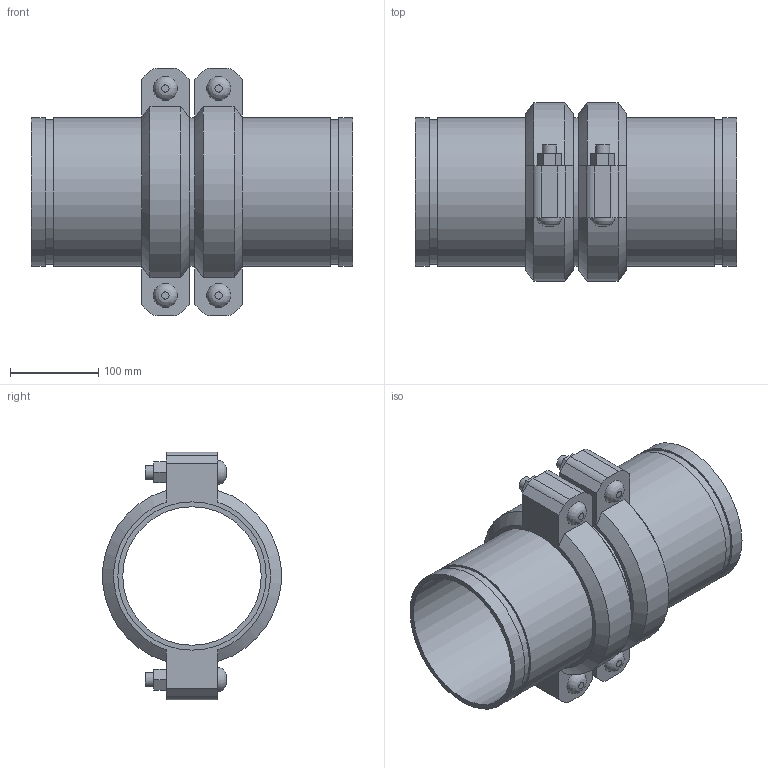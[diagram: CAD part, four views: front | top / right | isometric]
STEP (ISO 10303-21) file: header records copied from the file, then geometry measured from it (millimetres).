
FILE_DESCRIPTION(/* description */ ('VIC SS EXPANSION JOINT 2 COUPLINGS COMPRESSED STYLE 155P (OGS) (POTABLE WATER) ','CAx-IF Rec.Pracs.---Representation and Presentation of Product Manufacturing Information (PMI)---4.0---2014-10-13'),/* implementation_level */ '2;1');
FILE_NAME(/* name */ 'C:\Users\kkamble\AppData\Roaming\Autodesk\ApplicationPlugins\Victaulic.Temp\A462\Victaulic_SS_Expansion Joint_Compressed_2 Couplings_Style 155P (OGS)-Potable Water_2 Coup_Comp_6 (150).stp',/* time_stamp */ '2021-07-16T17:09:40+06:00',/* author */ ('kkamble'),/* organization */ ('Victaulic'),/* preprocessor_version */ 'ST-DEVELOPER v17.2',/* originating_system */ 'Autodesk Inventor 2019',/* authorisation */ '');
FILE_SCHEMA (('AP242_MANAGED_MODEL_BASED_3D_ENGINEERING_MIM_LF { 1 0 10303 442 1 1 4 }'));
Length unit declared in the file: inch
Products named in the file (4): 155P-06.0; Nipple-06.0; Nipple-06.0_1; 075-06.0
Assembly tree (5 placements, depth 2):
  155P-06.0
    Nipple-06.0  x2
    Nipple-06.0_1
    075-06.0  x2
Bounding box: 364.49 x 202.46 x 281.18 mm (x, y, z)
Volume: 2471236.4 mm3; surface area: 622376 mm2
Topology: 5 solids, 9 shells, 142 faces, 344 edges, 244 vertices
Faces by surface type: plane 86, cylinder 44, cone 8, bspline 4
Full cylindrical faces by diameter (mm): 15.875 x8, 17.424 x4, 157.15 x3, 163.957 x6, 168.275 x11
Entity records: 2641 total; most frequent: CARTESIAN_POINT 475, DIRECTION 435, ORIENTED_EDGE 374, EDGE_CURVE 187, AXIS2_PLACEMENT_3D 172, VERTEX_POINT 134, EDGE_LOOP 101, LINE 91
